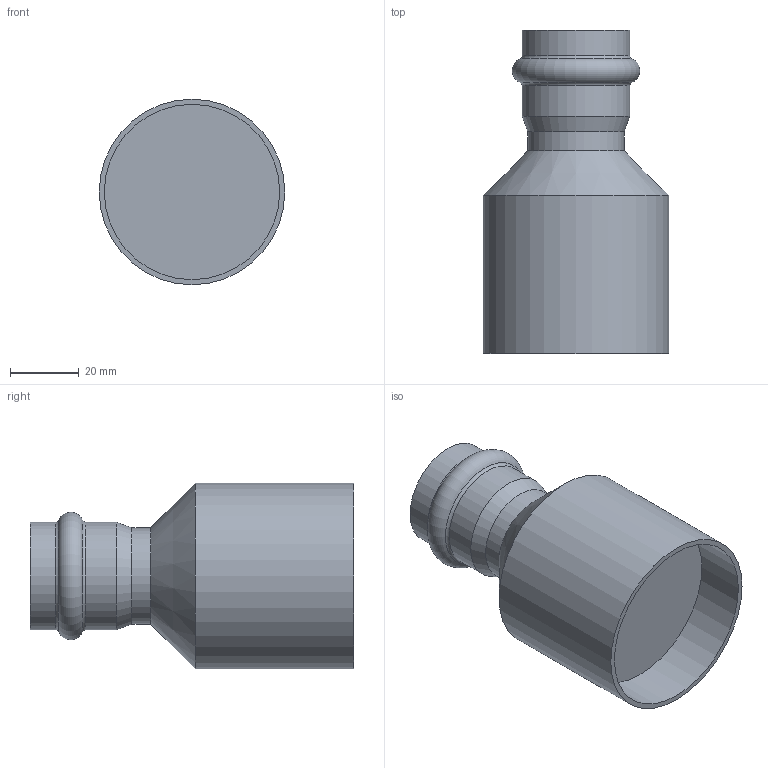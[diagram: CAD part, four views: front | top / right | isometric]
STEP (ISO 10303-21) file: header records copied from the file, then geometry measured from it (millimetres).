
FILE_DESCRIPTION(('STEP AP203'), '1');
FILE_NAME('VTi.905.I.005428', '', ('UNSPECIFIED'), ('UNSPECIFIED'), 'C3D Converter', 'C3D Toolkit', '');
FILE_SCHEMA(('CONFIG_CONTROL_DESIGN'));
Length unit declared in the file: millimetre
Bounding box: 54 x 94 x 54 mm (x, y, z)
Volume: 115263 mm3; surface area: 20019.5 mm2
Topology: 1 solids, 1 shells, 15 faces, 25 edges, 14 vertices
Faces by surface type: cylinder 6, plane 4, torus 3, cone 2
Full cylindrical faces by diameter (mm): 28 x1, 28.3 x1, 31.26 x2, 51 x1, 54 x1
Entity records: 334 total; most frequent: DIRECTION 60, CARTESIAN_POINT 44, AXIS2_PLACEMENT_3D 30, EDGE_LOOP 28, ORIENTED_EDGE 28, FACE_OUTER_BOUND 22, ADVANCED_FACE 15, EDGE_CURVE 14
